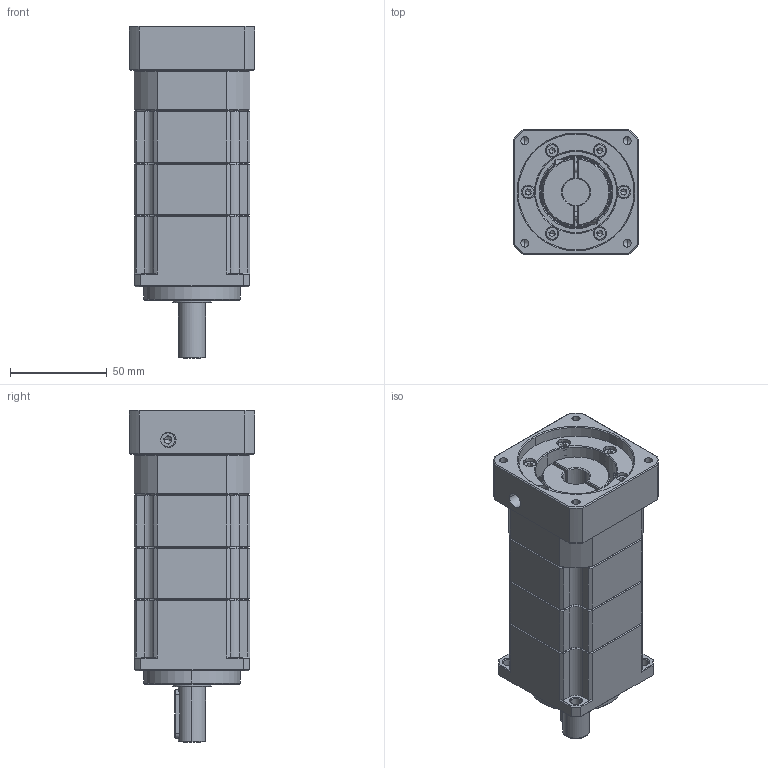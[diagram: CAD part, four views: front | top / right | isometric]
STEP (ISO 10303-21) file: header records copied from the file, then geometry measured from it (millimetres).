
FILE_DESCRIPTION (( 'STEP AP214' ), '1' );
FILE_NAME ('ZPB060-D14-L3-P1-14-60-75-M5.step', '2024-04-23T15:40:32', ( 'Windows 蚚誧' ), ( 'Organization' ), 'SwSTEP 2.0', 'SolidWorks 2016', '' );
FILE_SCHEMA (( 'AUTOMOTIVE_DESIGN' ));
Length unit declared in the file: millimetre
Products named in the file (1): ZPB060-D14-L3-P1-14-60-75-M5
Bounding box: 65 x 65 x 172 mm (x, y, z)
Volume: 421101 mm3; surface area: 89728.7 mm2
Topology: 17 solids, 25 shells, 2194 faces, 6039 edges, 3862 vertices
Faces by surface type: plane 1130, bspline 373, cylinder 329, cone 220, torus 96, sphere 46
Entity records: 112845 total; most frequent: CARTESIAN_POINT 36436, ORIENTED_EDGE 11740, DIRECTION 9302, EDGE_CURVE 5870, VERTEX_POINT 3793, LINE 3492, VECTOR 3492, AXIS2_PLACEMENT_3D 2905
